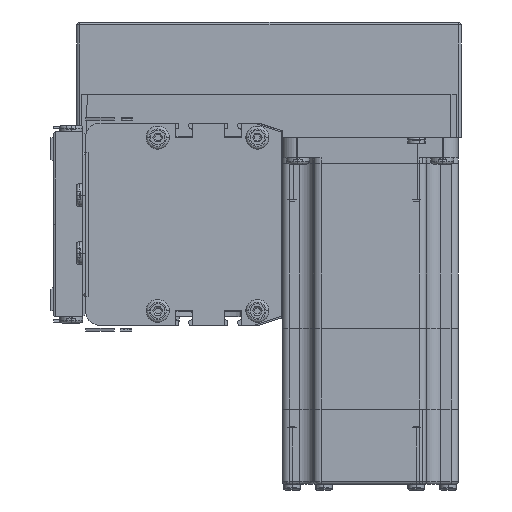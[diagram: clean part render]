
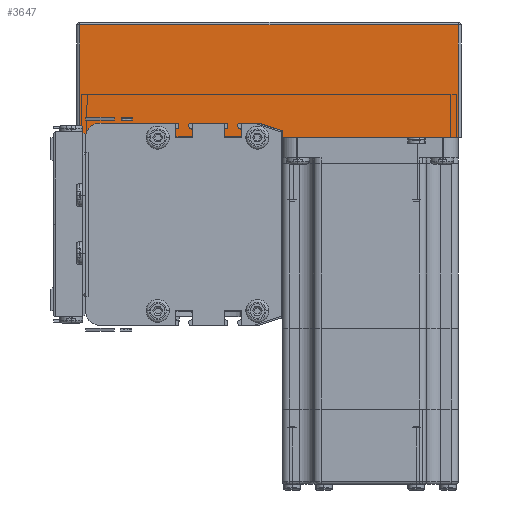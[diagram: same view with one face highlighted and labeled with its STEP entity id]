
A CAD part, left-side view. The second image highlights one B-rep face of the part: STEP entity #3647.
In plain terms, the highlighted planar face has unit normal (-1, 0, 0) as drawn and (0, 1, 0) by its records, which use the part's own axes.
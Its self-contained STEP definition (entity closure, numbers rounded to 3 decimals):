
#2993 = ORIENTED_EDGE ( 'NONE', *, *, #3081, .T. ) ;
#2995 = ORIENTED_EDGE ( 'NONE', *, *, #3299, .T. ) ;
#3081 = EDGE_CURVE ( 'NONE', #3092, #3085, #139686, .T. ) ;
#3085 = VERTEX_POINT ( 'NONE', #140106 ) ;
#3092 = VERTEX_POINT ( 'NONE', #140073 ) ;
#3286 = EDGE_CURVE ( 'NONE', #3085, #3469, #140978, .T. ) ;
#3297 = ORIENTED_EDGE ( 'NONE', *, *, #3611, .T. ) ;
#3299 = EDGE_CURVE ( 'NONE', #3471, #3092, #141274, .T. ) ;
#3365 = ORIENTED_EDGE ( 'NONE', *, *, #3286, .T. ) ;
#3371 = EDGE_LOOP ( 'NONE', ( #3297, #2995, #2993, #3365 ) ) ;
#3469 = VERTEX_POINT ( 'NONE', #141027 ) ;
#3471 = VERTEX_POINT ( 'NONE', #141015 ) ;
#3611 = EDGE_CURVE ( 'NONE', #3469, #3471, #141781, .T. ) ;
#3647 = ADVANCED_FACE ( 'NONE', ( #141773 ), #141757, .F. ) ;
#139686 = LINE ( 'NONE', #140079, #140077 ) ;
#140073 = CARTESIAN_POINT ( 'NONE',  ( 132., 62., 0. ) ) ;
#140076 = DIRECTION ( 'NONE',  ( -1., 0., 0. ) ) ;
#140077 = VECTOR ( 'NONE', #140076, 1000. ) ;
#140079 = CARTESIAN_POINT ( 'NONE',  ( 0., 62., 0. ) ) ;
#140106 = CARTESIAN_POINT ( 'NONE',  ( 1., 62., 0. ) ) ;
#140966 = DIRECTION ( 'NONE',  ( 0., 0., 1. ) ) ;
#140967 = VECTOR ( 'NONE', #140966, 1000. ) ;
#140976 = CARTESIAN_POINT ( 'NONE',  ( 1., 62., 40. ) ) ;
#140978 = LINE ( 'NONE', #140976, #140967 ) ;
#141015 = CARTESIAN_POINT ( 'NONE',  ( 132., 62., 39. ) ) ;
#141027 = CARTESIAN_POINT ( 'NONE',  ( 1., 62., 39. ) ) ;
#141254 = VECTOR ( 'NONE', #141264, 1000. ) ;
#141264 = DIRECTION ( 'NONE',  ( 0., 0., -1. ) ) ;
#141265 = CARTESIAN_POINT ( 'NONE',  ( 132., 62., 40. ) ) ;
#141274 = LINE ( 'NONE', #141265, #141254 ) ;
#141697 = DIRECTION ( 'NONE',  ( 0., 0., -1. ) ) ;
#141757 = PLANE ( 'NONE',  #141765 ) ;
#141765 = AXIS2_PLACEMENT_3D ( 'NONE', #141784, #141774, #141697 ) ;
#141773 = FACE_OUTER_BOUND ( 'NONE', #3371, .T. ) ;
#141774 = DIRECTION ( 'NONE',  ( 0., -1., 0. ) ) ;
#141775 = DIRECTION ( 'NONE',  ( 1., 0., 0. ) ) ;
#141776 = VECTOR ( 'NONE', #141775, 1000. ) ;
#141777 = CARTESIAN_POINT ( 'NONE',  ( 0., 62., 39. ) ) ;
#141781 = LINE ( 'NONE', #141777, #141776 ) ;
#141784 = CARTESIAN_POINT ( 'NONE',  ( 0., 62., 40. ) ) ;
